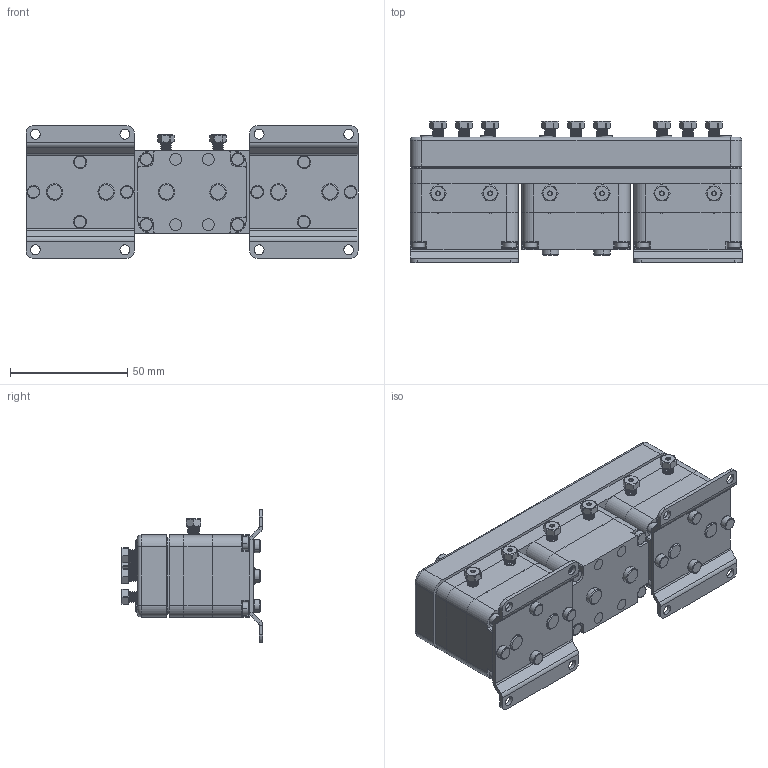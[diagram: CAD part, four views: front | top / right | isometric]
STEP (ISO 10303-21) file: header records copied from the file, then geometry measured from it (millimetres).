
FILE_DESCRIPTION (( 'STEP AP214' ), '1' );
FILE_NAME ('DVS-6-16MT-0001_Blank.STEP', '2022-04-11T15:59:50', ( 'user' ), ( '' ), 'SwSTEP 2.0', 'SolidWorks 2020', '' );
FILE_SCHEMA (( 'AUTOMOTIVE_DESIGN' ));
Length unit declared in the file: inch
Products named in the file (1): DVS-6-16MT-0001_Blank
Bounding box: 141.29 x 60.31 x 56.39 mm (x, y, z)
Volume: 240082.7 mm3; surface area: 56247.8 mm2
Topology: 1 solids, 1 shells, 3028 faces, 8059 edges, 5218 vertices
Faces by surface type: plane 1415, cylinder 671, bspline 624, cone 236, torus 82
Entity records: 194898 total; most frequent: CARTESIAN_POINT 84787, ORIENTED_EDGE 16070, DIRECTION 12654, EDGE_CURVE 8035, VERTEX_POINT 5218, VECTOR 4498, LINE 4498, AXIS2_PLACEMENT_3D 4078
